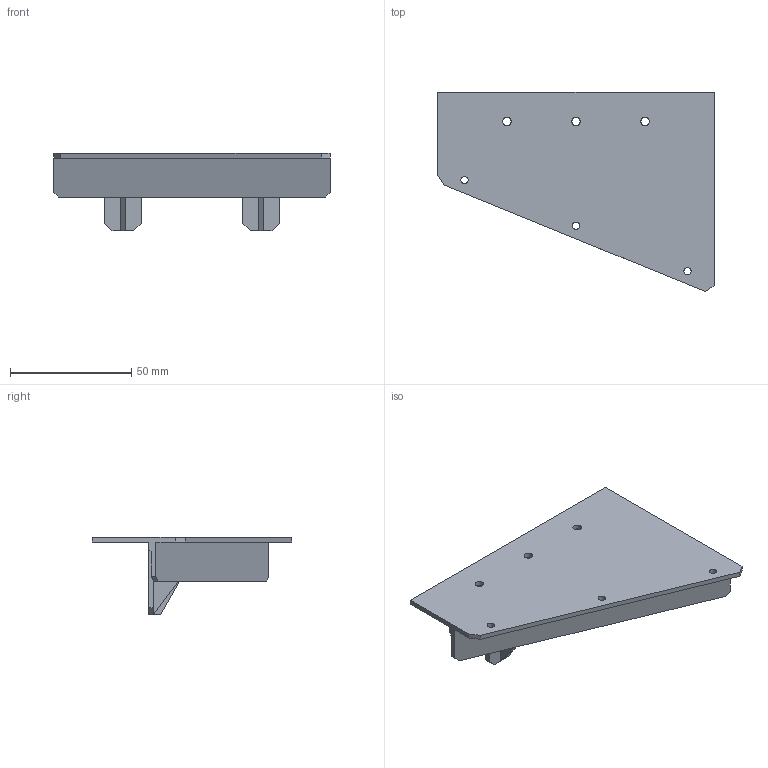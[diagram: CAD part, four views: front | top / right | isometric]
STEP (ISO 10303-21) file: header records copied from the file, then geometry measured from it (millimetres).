
FILE_DESCRIPTION(/* description */ (''),/* implementation_level */ '2;1');
FILE_NAME(/* name */ 'D:\3D печать\Мои проекты\Archy MK 2\STEP\Дисплей крепление.stp',/* time_stamp */ '2019-03-20T22:10:57+06:00',/* author */ ('Пользователь'),/* organization */ (''),/* preprocessor_version */ 'ST-DEVELOPER v16.5',/* originating_system */ 'Autodesk Inventor 2017',/* authorisation */ '');
FILE_SCHEMA (('AUTOMOTIVE_DESIGN { 1 0 10303 214 3 1 1 }'));
Length unit declared in the file: millimetre
Products named in the file (1): Дисплей \X2\043A04400435043F
043B0435043D04380435\X0\
Bounding box: 114 x 82.12 x 32 mm (x, y, z)
Volume: 21300.4 mm3; surface area: 21208.9 mm2
Topology: 1 solids, 1 shells, 50 faces, 136 edges, 89 vertices
Faces by surface type: plane 44, cylinder 6
Full cylindrical faces by diameter (mm): 3 x3, 3.5 x3
Entity records: 1570 total; most frequent: CARTESIAN_POINT 270, ORIENTED_EDGE 260, DIRECTION 244, EDGE_CURVE 130, LINE 118, VECTOR 118, VERTEX_POINT 89, EDGE_LOOP 69
